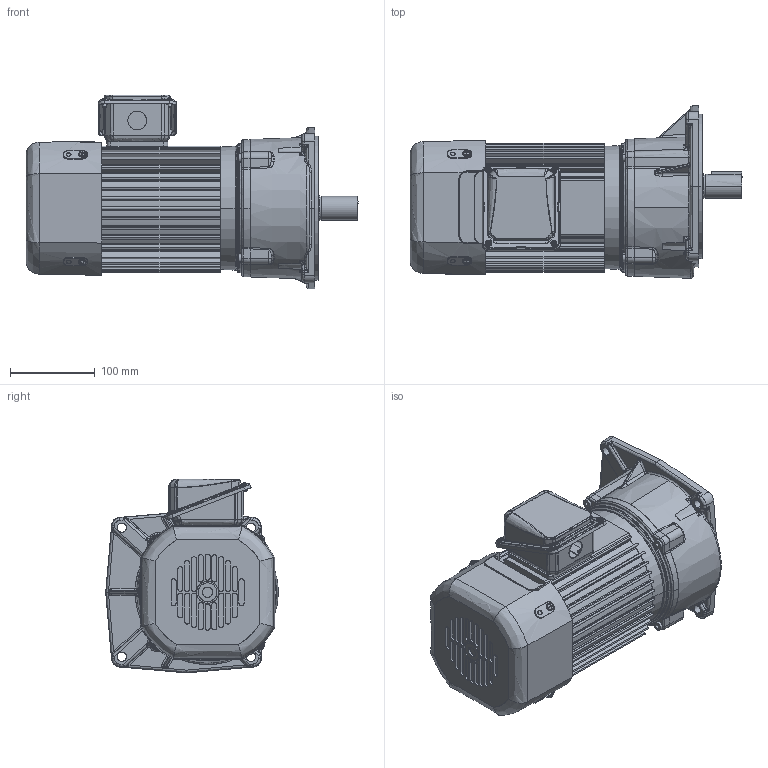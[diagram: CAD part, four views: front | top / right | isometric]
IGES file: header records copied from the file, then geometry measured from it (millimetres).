
Start section: SolidWorks IGES file using analytic representation for surfaces
Global section: file name: \\100.100.100.8\1_共有作業フォルダ\1-5_３Ｄデータ\solidworks\personal-folder\H.Nagayama\SGP1外形075~370\P1(3D)_075~370\igs\TMFB2-07-(5~25).IGS; native system: SolidWorks 2018; preprocessor: SolidWorks 2018; author: sigma-giken; date: 200806.160706; units: millimetre
Bounding box: 391 x 203.34 x 228.2 mm (x, y, z)
Surface area: 517254.1 mm2 (no closed solid volume)
Topology: 0 solids, 0 shells, 1682 faces, 20206 edges, 20164 vertices
Faces by surface type: bspline 882, revolution 800
